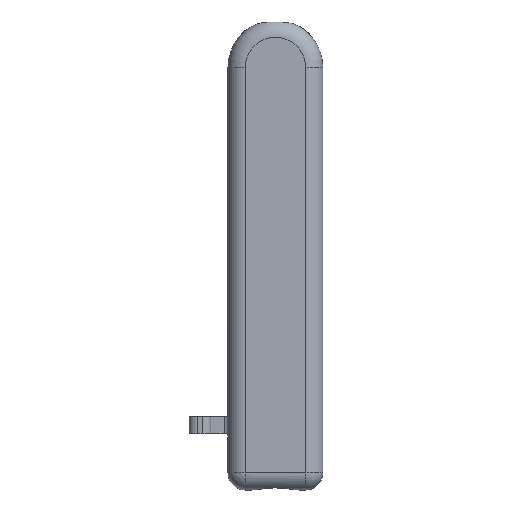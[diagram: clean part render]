
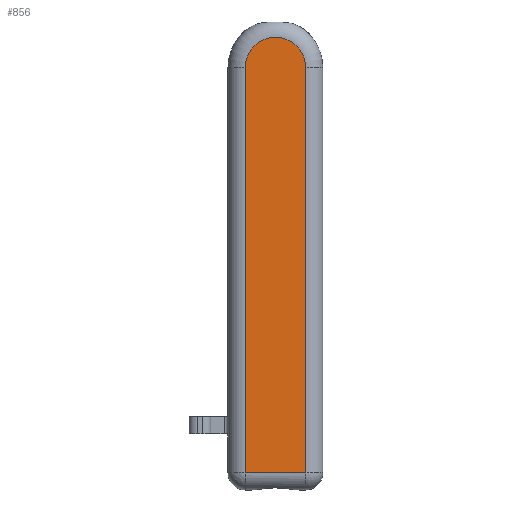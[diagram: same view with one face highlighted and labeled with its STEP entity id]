
A CAD part, front view. The second image highlights one B-rep face of the part: STEP entity #856.
In plain terms, the highlighted planar face has unit normal (0, -1, 0).
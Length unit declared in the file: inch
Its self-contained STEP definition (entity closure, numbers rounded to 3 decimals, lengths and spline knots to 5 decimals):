
#38=PLANE('',#967);
#87=FACE_OUTER_BOUND('',#134,.T.);
#134=EDGE_LOOP('',(#783,#784,#785,#786));
#144=LINE('',#1403,#211);
#198=LINE('',#1575,#265);
#202=LINE('',#1589,#269);
#211=VECTOR('',#1019,0.55118);
#265=VECTOR('',#1203,3.70079);
#269=VECTOR('',#1225,3.70079);
#276=CIRCLE('',#880,0.27559);
#345=VERTEX_POINT('',#1372);
#346=VERTEX_POINT('',#1374);
#354=VERTEX_POINT('',#1400);
#355=VERTEX_POINT('',#1402);
#427=EDGE_CURVE('',#345,#346,#276,.T.);
#441=EDGE_CURVE('',#354,#355,#144,.T.);
#529=EDGE_CURVE('',#346,#354,#198,.T.);
#536=EDGE_CURVE('',#355,#345,#202,.T.);
#783=ORIENTED_EDGE('',*,*,#536,.F.);
#784=ORIENTED_EDGE('',*,*,#441,.F.);
#785=ORIENTED_EDGE('',*,*,#529,.F.);
#786=ORIENTED_EDGE('',*,*,#427,.F.);
#856=ADVANCED_FACE('',(#87),#38,.F.);
#880=AXIS2_PLACEMENT_3D('',#1375,#988,#989);
#967=AXIS2_PLACEMENT_3D('',#1591,#1228,#1229);
#988=DIRECTION('center_axis',(0.,1.,0.));
#989=DIRECTION('ref_axis',(0.,0.,1.));
#1019=DIRECTION('',(-1.,0.,0.));
#1203=DIRECTION('',(0.,0.,-1.));
#1225=DIRECTION('',(0.,0.,1.));
#1228=DIRECTION('center_axis',(0.,1.,0.));
#1229=DIRECTION('ref_axis',(0.,0.,1.));
#1372=CARTESIAN_POINT('',(-0.27559,-0.43307,3.89764));
#1374=CARTESIAN_POINT('',(0.27559,-0.43307,3.89764));
#1375=CARTESIAN_POINT('Origin',(0.,-0.43307,
3.89764));
#1400=CARTESIAN_POINT('',(0.27559,-0.43307,0.19685));
#1402=CARTESIAN_POINT('',(-0.27559,-0.43307,0.19685));
#1403=CARTESIAN_POINT('',(0.27559,-0.43307,0.19685));
#1575=CARTESIAN_POINT('',(0.27559,-0.43307,3.89764));
#1589=CARTESIAN_POINT('',(-0.27559,-0.43307,0.19685));
#1591=CARTESIAN_POINT('Origin',(0.,-0.43307,
3.89764));
